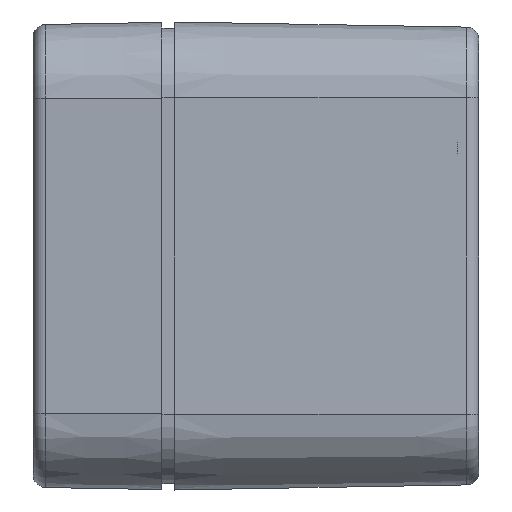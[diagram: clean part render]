
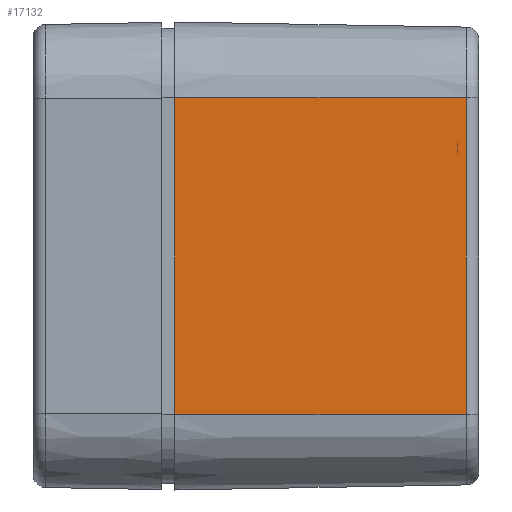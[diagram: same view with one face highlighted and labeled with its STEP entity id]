
A CAD part, left-side view. The second image highlights one B-rep face of the part: STEP entity #17132.
In plain terms, the highlighted planar face has unit normal (-1, -0.018, 0).
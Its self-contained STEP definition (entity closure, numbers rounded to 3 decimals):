
#819 = CARTESIAN_POINT ( 'NONE',  ( -92.45, 0., 12.55 ) ) ;
#821 = AXIS2_PLACEMENT_3D ( 'NONE', #26919, #15296, #17630 ) ;
#856 = CARTESIAN_POINT ( 'NONE',  ( -92.433, -1., 12.55 ) ) ;
#2993 = CARTESIAN_POINT ( 'NONE',  ( -92.433, -1., 12.55 ) ) ;
#5318 = EDGE_LOOP ( 'NONE', ( #5794, #10290, #12346, #22073 ) ) ;
#5794 = ORIENTED_EDGE ( 'NONE', *, *, #5851, .T. ) ;
#5851 = EDGE_CURVE ( 'NONE', #18266, #27276, #7336, .T. ) ;
#7336 = LINE ( 'NONE', #819, #20013 ) ;
#7479 = VECTOR ( 'NONE', #8177, 1000. ) ;
#7905 = EDGE_CURVE ( 'NONE', #26542, #18266, #8198, .T. ) ;
#8177 = DIRECTION ( 'NONE',  ( -0.017, 1., 0. ) ) ;
#8198 = LINE ( 'NONE', #29604, #12315 ) ;
#8250 = EDGE_CURVE ( 'NONE', #27276, #12864, #22137, .T. ) ;
#8476 = CARTESIAN_POINT ( 'NONE',  ( -92.45, 0., -12.55 ) ) ;
#8644 = CARTESIAN_POINT ( 'NONE',  ( -92.029, -24.117, 12.55 ) ) ;
#10290 = ORIENTED_EDGE ( 'NONE', *, *, #8250, .T. ) ;
#10350 = FACE_OUTER_BOUND ( 'NONE', #5318, .T. ) ;
#12150 = DIRECTION ( 'NONE',  ( -0.017, 1., 0. ) ) ;
#12315 = VECTOR ( 'NONE', #17806, 1000. ) ;
#12346 = ORIENTED_EDGE ( 'NONE', *, *, #13788, .F. ) ;
#12864 = VERTEX_POINT ( 'NONE', #28433 ) ;
#13788 = EDGE_CURVE ( 'NONE', #26542, #12864, #29424, .T. ) ;
#15296 = DIRECTION ( 'NONE',  ( -1., -0.017, 0. ) ) ;
#16295 = VECTOR ( 'NONE', #26697, 1000. ) ;
#17132 = ADVANCED_FACE ( 'NONE', ( #10350 ), #17468, .T. ) ;
#17468 = PLANE ( 'NONE',  #821 ) ;
#17630 = DIRECTION ( 'NONE',  ( 0.017, -1., 0. ) ) ;
#17806 = DIRECTION ( 'NONE',  ( 0., 0., 1. ) ) ;
#18266 = VERTEX_POINT ( 'NONE', #8644 ) ;
#20013 = VECTOR ( 'NONE', #12150, 1000. ) ;
#22073 = ORIENTED_EDGE ( 'NONE', *, *, #7905, .T. ) ;
#22137 = LINE ( 'NONE', #2993, #16295 ) ;
#25872 = CARTESIAN_POINT ( 'NONE',  ( -92.029, -24.117, -12.55 ) ) ;
#26542 = VERTEX_POINT ( 'NONE', #25872 ) ;
#26697 = DIRECTION ( 'NONE',  ( 0., 0., -1. ) ) ;
#26919 = CARTESIAN_POINT ( 'NONE',  ( -92.45, 0., 12.55 ) ) ;
#27276 = VERTEX_POINT ( 'NONE', #856 ) ;
#28433 = CARTESIAN_POINT ( 'NONE',  ( -92.433, -1., -12.55 ) ) ;
#29424 = LINE ( 'NONE', #8476, #7479 ) ;
#29604 = CARTESIAN_POINT ( 'NONE',  ( -92.029, -24.117, 12.55 ) ) ;
